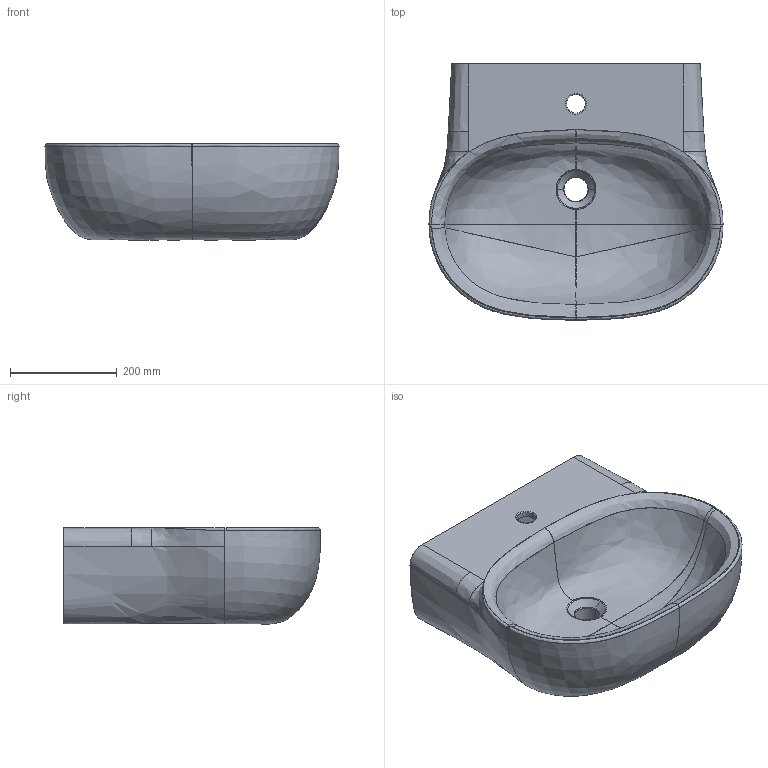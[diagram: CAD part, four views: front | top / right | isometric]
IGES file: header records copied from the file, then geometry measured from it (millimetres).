
Start section: START RECORD GO HERE.
Global section: file name: 7119_3D.igs; native system: DASSAULT SYSTEMES CATIA V5 R19 - www.3ds.com; preprocessor: CATIA Version 5 Release 19 SP 5 ; author: Luca; organization: DESKTOP-V7SON24; date: 20201027.145747; units: millimetre
Bounding box: 550.03 x 479.99 x 180.72 mm (x, y, z)
Surface area: 947074.7 mm2 (no closed solid volume)
Topology: 0 solids, 0 shells, 99 faces, 534 edges, 534 vertices
Faces by surface type: bspline 61, plane 20, revolution 18
